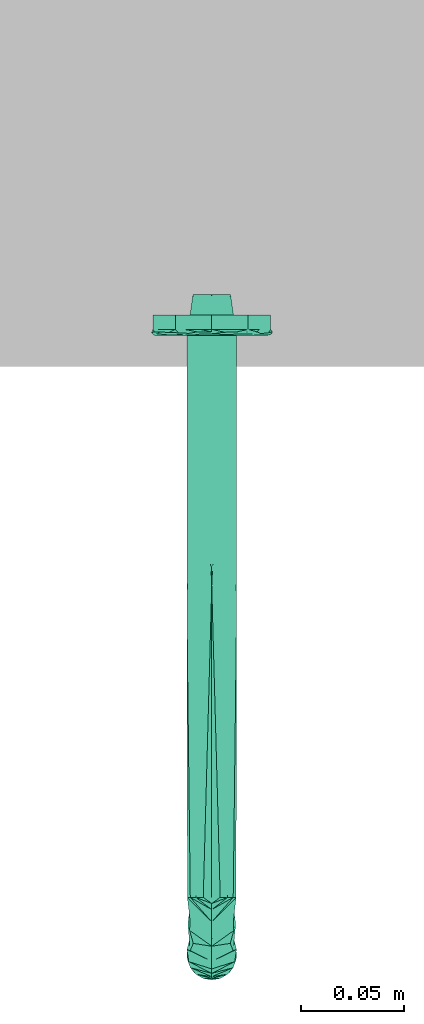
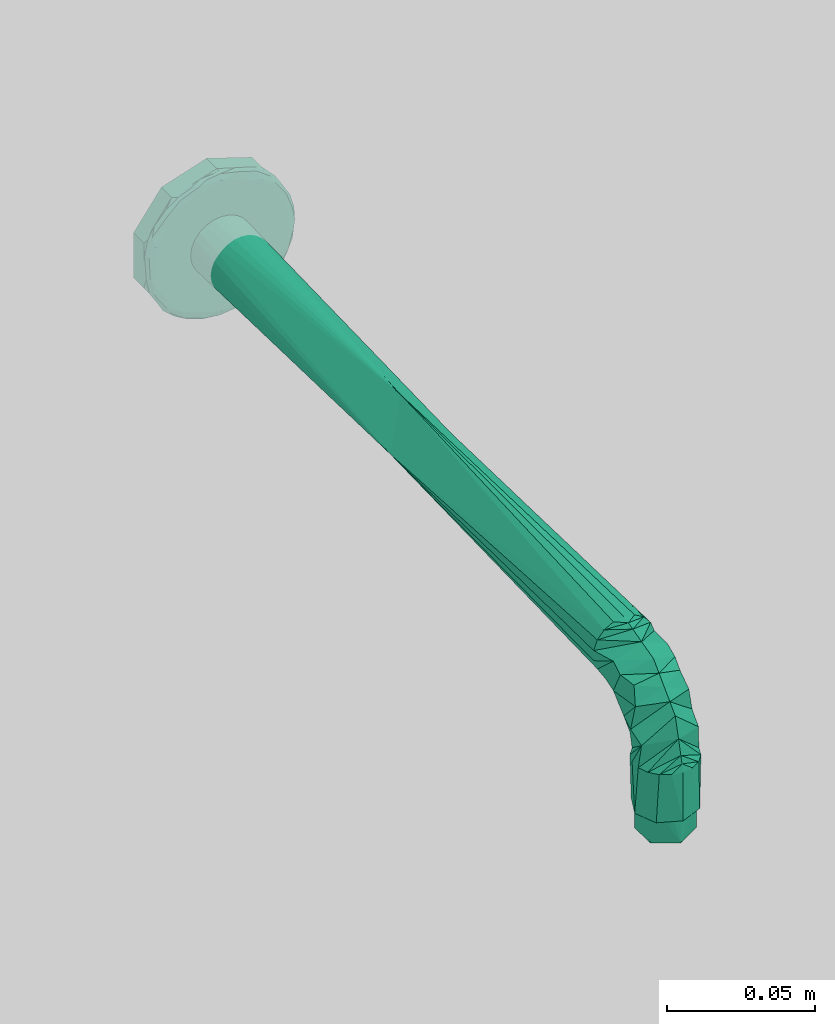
# One storey, part 2 of 2: 1 flow terminal.
"""IFC2X3 building model written with IfcOpenShell, lengths in millimetres."""

from ifc_helpers import new_model, entity, si_unit, converted_unit, derived_unit, direction, frame, origin, place, context, subcontext, project, spatial, faceted_brep, source, transform, mapped, material, type_object, type_shapes, element, save


model = new_model("IFC2X3")

# Units and contexts
model_context = context("Model", 3, precision=0.01, world=origin(), true_north=direction((6.12303176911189e-17, 1.0)))
body_context = subcontext(model_context, "Body", "Model", "MODEL_VIEW")
ifc_project = project(units=[si_unit("LENGTHUNIT", "METRE", prefix="MILLI"), si_unit("AREAUNIT", "SQUARE_METRE"), si_unit("VOLUMEUNIT", "CUBIC_METRE"), converted_unit("PLANEANGLEUNIT", "DEGREE", entity("IfcRatioMeasure", 0.0174532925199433), si_unit("PLANEANGLEUNIT", "RADIAN"), dimensions=[0, 0, 0, 0, 0, 0, 0]), si_unit("MASSUNIT", "GRAM", prefix="KILO"), derived_unit("MASSDENSITYUNIT", [(si_unit("MASSUNIT", "GRAM", prefix="KILO"), 1), (si_unit("LENGTHUNIT", "METRE"), -3)]), derived_unit("MOMENTOFINERTIAUNIT", [(si_unit("LENGTHUNIT", "METRE"), 4)]), si_unit("TIMEUNIT", "SECOND"), si_unit("FREQUENCYUNIT", "HERTZ"), si_unit("THERMODYNAMICTEMPERATUREUNIT", "DEGREE_CELSIUS"), derived_unit("THERMALTRANSMITTANCEUNIT", [(si_unit("MASSUNIT", "GRAM", prefix="KILO"), 1), (si_unit("THERMODYNAMICTEMPERATUREUNIT", "KELVIN"), -1), (si_unit("TIMEUNIT", "SECOND"), -3)]), derived_unit("VOLUMETRICFLOWRATEUNIT", [(si_unit("LENGTHUNIT", "METRE"), 3), (si_unit("TIMEUNIT", "SECOND"), -1)]), si_unit("ELECTRICCURRENTUNIT", "AMPERE"), si_unit("ELECTRICVOLTAGEUNIT", "VOLT"), si_unit("POWERUNIT", "WATT"), si_unit("FORCEUNIT", "NEWTON", prefix="KILO"), si_unit("ILLUMINANCEUNIT", "LUX"), si_unit("LUMINOUSFLUXUNIT", "LUMEN"), si_unit("LUMINOUSINTENSITYUNIT", "CANDELA"), derived_unit("USERDEFINED", [(si_unit("MASSUNIT", "GRAM", prefix="KILO"), -1), (si_unit("LENGTHUNIT", "METRE"), -2), (si_unit("TIMEUNIT", "SECOND"), 3), (si_unit("LUMINOUSFLUXUNIT", "LUMEN"), 1)]), derived_unit("LINEARVELOCITYUNIT", [(si_unit("LENGTHUNIT", "METRE"), 1), (si_unit("TIMEUNIT", "SECOND"), -1)]), si_unit("PRESSUREUNIT", "PASCAL"), derived_unit("USERDEFINED", [(si_unit("LENGTHUNIT", "METRE"), -2), (si_unit("MASSUNIT", "GRAM", prefix="KILO"), 1), (si_unit("TIMEUNIT", "SECOND"), -2)]), derived_unit("LINEARFORCEUNIT", [(si_unit("MASSUNIT", "GRAM", prefix="KILO"), 1), (si_unit("LENGTHUNIT", "METRE"), 1), (si_unit("TIMEUNIT", "SECOND"), -2), (si_unit("LENGTHUNIT", "METRE"), -1)]), derived_unit("PLANARFORCEUNIT", [(si_unit("MASSUNIT", "GRAM", prefix="KILO"), 1), (si_unit("LENGTHUNIT", "METRE"), 1), (si_unit("TIMEUNIT", "SECOND"), -2), (si_unit("LENGTHUNIT", "METRE"), -2)])], contexts=[model_context])

# Site, building, storey
site_placement = place(None, origin())
site = spatial("IfcSite", under=ifc_project, at=site_placement, Name="Default", CompositionType="ELEMENT")
building_placement = place(site_placement, origin())
building = spatial("IfcBuilding", under=site, at=building_placement, CompositionType="ELEMENT")
storey_placement = place(building_placement, origin())
storey = spatial("IfcBuildingStorey", under=building, at=storey_placement, Name="Level 1", CompositionType="ELEMENT", Elevation=0.0)

# Flow terminal
ifc_material = material(Name="Black")
distribution_element_type = type_object("IfcDistributionElementType", Name="FFAS9909-000AL0BF0_REVIT:Wall Mounted Shower Arm", material=ifc_material)
shared_shape = source(origin(), body_context, "Body", "Brep", [
    faceted_brep([(30.1269677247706, 309.500000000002, 0.0), (30.1269677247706, 309.500000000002, 10.0), (27.4093677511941, 309.857778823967, 10.0), (24.8769677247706, 310.906733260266, 10.0), (22.7023465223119, 312.575378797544, 10.0), (21.033700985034, 314.750000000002, 0.0), (21.033700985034, 314.750000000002, 10.0), (19.9847465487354, 317.282400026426, 10.0), (19.6269677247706, 320.0, 10.0), (21.033700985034, 325.250000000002, 0.0), (19.9847465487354, 322.717599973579, 10.0), (21.033700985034, 325.250000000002, 10.0), (22.7023465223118, 327.424621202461, 10.0), (24.8769677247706, 329.093266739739, 10.0), (30.1269677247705, 330.500000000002, 0.0), (27.4093677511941, 330.142221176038, 10.0), (30.1269677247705, 330.500000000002, 10.0), (32.844567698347, 330.142221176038, 10.0), (35.3769677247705, 329.093266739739, 10.0), (37.5515889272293, 327.424621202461, 10.0), (39.2202344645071, 325.250000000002, 0.0), (39.2202344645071, 325.250000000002, 10.0), (40.2691889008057, 322.717599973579, 10.0), (40.6269677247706, 320.0, 10.0), (39.2202344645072, 314.750000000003, 0.0), (40.2691889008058, 317.282400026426, 10.0), (39.2202344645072, 314.750000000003, 10.0), (37.5515889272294, 312.575378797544, 10.0), (35.3769677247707, 310.906733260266, 10.0), (32.8445676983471, 309.857778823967, 10.0), (30.1269677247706, 320.0, 0.0), (21.641686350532, 311.514718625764, 10.0), (19.7345811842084, 314.000141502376, 30.0), (18.1269677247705, 320.0, 10.0), (22.4134329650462, 310.807536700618, 30.0), (30.1269677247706, 308.0, 10.0), (30.1269677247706, 308.0, 30.0), (26.0226748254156, 308.723707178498, 30.0), (18.3092368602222, 317.916436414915, 30.0), (19.734826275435, 326.000283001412, 30.0), (22.4138084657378, 329.192778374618, 30.0), (21.6416863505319, 328.485281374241, 10.0), (26.0231354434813, 331.276460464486, 30.0), (30.1269677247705, 332.0, 30.0), (30.1269677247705, 332.0, 10.0), (18.3093219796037, 322.084046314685, 30.0), (38.6122490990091, 328.485281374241, 10.0), (40.5191091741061, 326.000283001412, 30.0), (42.1269677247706, 320.0, 10.0), (37.8401269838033, 329.192778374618, 30.0), (34.2308000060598, 331.276460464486, 30.0), (41.9446134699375, 322.084046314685, 30.0), (40.5193542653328, 314.000141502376, 30.0), (37.840502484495, 310.807536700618, 30.0), (38.6122490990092, 311.514718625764, 10.0), (34.2312606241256, 308.723707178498, 30.0), (41.944698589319, 317.916436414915, 30.0), (41.24407279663, 323.105900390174, 39.4776777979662), (42.1224096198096, 317.201855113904, 42.9420255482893), (30.1269677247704, 326.641016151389, 50.0), (30.1269677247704, 330.407903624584, 35.9417845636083), (30.1269677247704, 331.203951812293, 32.9708922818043), (30.1269677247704, 328.815807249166, 41.8835691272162), (40.8149430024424, 307.984073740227, 59.390622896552), (40.9745991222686, 298.892429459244, 51.8054547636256), (41.7227950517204, 304.890136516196, 51.3176850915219), (39.072822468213, 314.265808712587, 58.2861507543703), (30.1269677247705, 305.656854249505, 35.6568542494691), (38.3193133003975, 310.191100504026, 36.2399445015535), (40.020574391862, 308.956264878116, 42.7401061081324), (37.8405024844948, 292.0, 67.1924632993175), (30.1269677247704, 294.970892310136, 69.2039518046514), (34.2312606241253, 292.0, 69.2762928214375), (30.1269677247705, 303.313708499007, 41.3137084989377), (30.1269677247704, 297.941784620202, 68.4079036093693), (40.5193542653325, 292.0, 63.9998584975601), (40.519109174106, 292.0, 51.999716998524), (40.6631959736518, 302.998442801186, 61.9007624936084), (41.9446134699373, 292.0, 55.9159536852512), (41.9446985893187, 292.0, 60.0835635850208), (30.1269677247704, 303.883569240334, 66.8158072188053), (37.8401269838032, 292.0, 48.8072216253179), (30.1269677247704, 292.0, 70.0), (30.1269677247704, 319.320508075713, 57.3205080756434), (30.1269677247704, 315.660254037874, 60.9807621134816), (30.1269677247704, 322.980762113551, 53.660254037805), (40.5619659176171, 317.763908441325, 52.0716186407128), (30.1269677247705, 297.656854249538, 43.6568542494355), (30.1269677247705, 292.0, 46.0), (30.1269677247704, 312.0, 64.6410161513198), (34.2308000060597, 292.0, 46.7235395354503), (19.0098626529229, 323.105900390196, 39.477677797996), (20.1900589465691, 308.916109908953, 42.898408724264), (18.1315258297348, 317.201855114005, 42.9420255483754), (21.9346221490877, 310.191100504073, 36.239944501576), (22.413432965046, 292.0, 67.1924632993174), (26.0226748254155, 292.0, 69.2762928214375), (19.2793363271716, 298.892429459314, 51.8054547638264), (18.5311403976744, 304.890136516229, 51.317685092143), (19.7298962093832, 317.841611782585, 52.082781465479), (21.1546214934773, 314.276419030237, 58.2399397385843), (26.0231354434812, 292.0, 46.7235395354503), (22.4138084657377, 292.0, 48.8072216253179), (19.7345811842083, 292.0, 63.9998584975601), (19.7348262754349, 292.0, 51.999716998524), (18.3093219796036, 292.0, 55.9159536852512), (19.590739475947, 302.99844280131, 61.900762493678), (18.3092368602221, 292.0, 60.0835635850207), (19.4576261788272, 308.019821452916, 59.412551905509), (30.1269677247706, 140.956193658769, 70.0), (18.1269677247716, 154.83805026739, 57.9999997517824), (27.0211391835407, 20.0, 69.5911099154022), (30.1269677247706, 20.0, 70.0), (24.1269677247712, 20.0, 68.3923048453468), (21.6416863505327, 20.0, 66.4852813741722), (30.1269677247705, 140.956188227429, 46.0), (21.6416863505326, 20.0, 49.5147186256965), (27.0211391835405, 20.0, 46.4088900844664), (24.126967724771, 20.0, 47.6076951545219), (19.7346628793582, 20.0, 64.0), (18.5358578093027, 20.0, 61.1058285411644), (30.1269677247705, 20.0, 46.0), (18.1269677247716, 20.0, 58.0), (18.5358578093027, 20.0, 54.8941714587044), (19.7346628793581, 20.0, 52.0), (42.1269677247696, 154.838047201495, 58.0000004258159), (38.6122490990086, 20.0, 66.4852813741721), (33.2327962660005, 20.0, 46.4088900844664), (36.1269677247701, 20.0, 47.6076951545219), (38.6122490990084, 20.0, 49.5147186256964), (33.2327962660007, 20.0, 69.5911099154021), (36.1269677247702, 20.0, 68.3923048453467), (40.519272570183, 20.0, 52.0), (41.7180776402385, 20.0, 54.8941714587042), (42.1269677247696, 20.0, 58.0), (41.7180776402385, 20.0, 61.1058285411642), (40.5192725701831, 20.0, 64.0), (30.1269677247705, 10.0, 28.0), (30.1269677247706, 10.0, 47.4999999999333), (27.4093677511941, 10.0, 47.857778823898), (32.8445676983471, 10.0, 47.857778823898), (38.9437465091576, 10.0, 30.8647450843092), (24.5360005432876, 10.0, 29.8166153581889), (47.7605252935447, 10.0, 33.7294901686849), (35.3769677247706, 10.0, 48.9067332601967), (37.5515889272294, 10.0, 50.5753787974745), (39.2202344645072, 10.0, 52.7499999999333), (53.2095942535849, 10.0, 41.2294901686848), (58.6586632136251, 10.0, 48.7294901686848), (40.2691889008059, 10.0, 55.2824000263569), (40.6269677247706, 10.0, 58.0), (58.6586632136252, 10.0, 58.0), (58.6586632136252, 10.0, 67.2705098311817), (40.2691889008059, 10.0, 60.7175999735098), (39.2202344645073, 10.0, 63.2499999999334), (53.2095942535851, 10.0, 74.7705098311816), (47.7605252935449, 10.0, 82.2705098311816), (37.5515889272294, 10.0, 65.424621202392), (35.3769677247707, 10.0, 67.09326673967), (32.8445676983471, 10.0, 68.1422211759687), (41.3089020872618, 10.0, 84.3667692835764), (35.7179349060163, 10.0, 86.1833846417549), (30.1269677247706, 10.0, 88.0), (30.1269677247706, 10.0, 68.4999999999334), (27.4093677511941, 10.0, 68.1422211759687), (21.3101889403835, 10.0, 85.1352549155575), (12.4934101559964, 10.0, 82.2705098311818), (24.8769677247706, 10.0, 67.09326673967), (22.7023465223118, 10.0, 65.4246212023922), (21.033700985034, 10.0, 63.2499999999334), (7.04434119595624, 10.0, 74.7705098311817), (1.59527223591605, 10.0, 67.2705098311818), (19.9847465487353, 10.0, 60.7175999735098), (19.6269677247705, 10.0, 58.0), (1.59527223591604, 10.0, 58.0), (1.59527223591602, 10.0, 48.729490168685), (19.9847465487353, 10.0, 55.2824000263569), (21.0337009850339, 10.0, 52.7499999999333), (7.04434119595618, 10.0, 41.229490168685), (12.4934101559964, 10.0, 33.7294901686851), (18.9450333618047, 10.0, 31.6332307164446), (24.8769677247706, 10.0, 48.9067332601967), (22.7023465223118, 10.0, 50.5753787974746), (30.1269677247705, 20.0, 31.0), (24.5140320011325, 20.0, 32.8237533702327), (19.3853989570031, 20.0, 34.4901472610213), (14.2567659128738, 20.0, 36.1565411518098), (35.7399034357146, 20.0, 32.8237533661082), (40.8685364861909, 20.0, 34.490147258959), (45.9971695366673, 20.0, 36.1565411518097), (50.9013316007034, 20.0, 42.9065411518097), (55.8054936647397, 20.0, 49.6565411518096), (55.8054936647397, 20.0, 58.0), (55.8054936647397, 20.0, 66.3434588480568), (50.9013316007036, 20.0, 73.0934588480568), (45.9971695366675, 20.0, 79.8434588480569), (40.8685364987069, 20.0, 81.509852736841), (35.7399034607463, 20.0, 83.1762466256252), (30.1269677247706, 20.0, 85.0), (24.5140320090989, 20.0, 83.1762466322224), (19.3853989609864, 20.0, 81.5098527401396), (14.2567659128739, 20.0, 79.8434588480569), (9.35260384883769, 20.0, 73.0934588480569), (4.4484417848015, 20.0, 66.3434588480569), (4.4484417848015, 20.0, 58.0), (4.44844178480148, 20.0, 49.6565411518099), (9.35260384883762, 20.0, 42.9065411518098), (8.94088178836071, 19.7758351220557, 76.5172696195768), (23.8642352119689, 18.4003672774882, 86.9842177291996), (30.1269677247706, 17.0, 88.0), (30.1269677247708, 18.2407155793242, 87.4860787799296), (30.1269677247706, 19.1213203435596, 87.121320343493), (4.63302860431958, 19.7063301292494, 70.2735009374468), (6.31497138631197, 19.0463954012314, 74.8896487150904), (23.5591672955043, 19.5082021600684, 85.8827985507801), (17.7658619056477, 18.1590754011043, 85.0791450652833), (21.3101889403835, 17.0, 85.1352549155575), (2.60169203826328, 18.6053377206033, 68.7068469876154), (16.0686840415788, 19.2120034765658, 83.3950233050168), (12.9280938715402, 18.2771867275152, 82.2312474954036), (12.4934101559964, 17.0, 82.2705098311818), (23.8642352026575, 18.4003672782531, 29.0157822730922), (30.1269677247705, 17.0, 28.0), (21.3101889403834, 17.0, 30.8647450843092), (2.2515364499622, 19.7528745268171, 53.7847259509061), (2.25881579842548, 19.6323929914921, 63.6690918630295), (23.5591672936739, 19.5082021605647, 30.1172014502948), (17.7658618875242, 18.159075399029, 30.9208549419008), (16.0686840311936, 19.2120034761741, 32.6049767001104), (8.94088177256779, 19.7758351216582, 39.4827303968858), (3.81458142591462, 19.6404523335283, 47.2488696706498), (0.938720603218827, 19.0522121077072, 58.0), (1.6882141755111, 18.7100272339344, 50.2916588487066), (12.928093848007, 18.2771867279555, 33.7687525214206), (10.8128441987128, 19.2443203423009, 36.3799316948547), (10.8128442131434, 19.2443203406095, 79.6200683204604), (8.28820262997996, 18.1819470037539, 78.2130764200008), (30.1269677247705, 19.1213203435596, 28.8786796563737), (1.595272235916, 17.0, 48.729490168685), (3.40587226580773, 18.1225517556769, 44.8487884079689), (7.04434119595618, 17.0, 41.229490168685), (1.59527223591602, 17.0, 58.0), (1.59527223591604, 17.0, 67.2705098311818), (0.703286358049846, 18.084956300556, 62.7015497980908), (30.1269677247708, 19.5071657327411, 86.1898071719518), (24.5360005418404, 17.0, 86.1833846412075), (18.9450333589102, 17.0, 84.3667692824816), (7.04434119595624, 17.0, 74.7705098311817), (8.28820260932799, 18.1819470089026, 37.7869236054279), (6.31497136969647, 19.0463954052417, 41.1103513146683), (12.4934101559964, 17.0, 33.7294901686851), (38.6315943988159, 19.7138627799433, 84.9694908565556), (37.3077637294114, 18.1903897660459, 86.8742100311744), (58.6586632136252, 17.0, 67.2705098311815), (58.6586632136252, 17.0, 58.0), (59.29864318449, 18.5840335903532, 62.6990050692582), (36.6947681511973, 19.5082021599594, 30.1172014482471), (42.4880735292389, 18.1590754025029, 30.9208549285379), (38.9437465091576, 17.0, 30.8647450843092), (36.3897002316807, 18.4003672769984, 29.0157822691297), (45.7862895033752, 19.5617797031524, 81.8857002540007), (44.1852513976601, 19.2120034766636, 32.6049766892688), (47.3258415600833, 18.2771867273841, 33.7687524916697), (47.7605252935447, 17.0, 33.7294901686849), (35.5815706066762, 19.2210505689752, 86.4993702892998), (58.9001524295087, 19.0888524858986, 53.3075947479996), (58.6586632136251, 17.0, 48.7294901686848), (49.4410912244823, 19.2443203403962, 36.3799316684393), (53.9389640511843, 19.0463953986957, 41.110351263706), (51.9657327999, 18.1819470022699, 37.786923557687), (47.7605252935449, 17.0, 82.2705098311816), (53.2095942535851, 17.0, 74.7705098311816), (50.8376509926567, 18.4769059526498, 79.1635325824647), (38.9437465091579, 17.0, 85.1352549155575), (43.3521359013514, 17.0, 83.7028823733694), (35.7399034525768, 17.0, 86.1762466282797), (41.1365507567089, 18.9259641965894, 85.153038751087), (50.8944920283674, 19.6974769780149, 77.2439167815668), (46.3005378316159, 18.6605192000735, 82.6693977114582), (57.8437951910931, 18.1661287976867, 68.8479487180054), (55.9341287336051, 17.0, 71.0205098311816), (51.3130536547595, 19.7758351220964, 39.4827303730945), (55.3761447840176, 18.2555389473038, 73.6854337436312), (56.4817793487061, 19.1497699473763, 70.3205733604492), (58.1297475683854, 19.6947777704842, 62.2161564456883), (55.6209068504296, 19.7063301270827, 45.7264990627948), (57.4575274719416, 18.6851858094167, 46.9443794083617), (57.7914465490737, 19.8341555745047, 53.7856041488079), (35.7179349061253, 17.0, 29.8166153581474), (41.3089020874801, 17.0, 31.6332307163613), (53.2095942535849, 17.0, 41.2294901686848), (30.1269677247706, 0.0, 68.4999999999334), (21.033700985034, 0.0, 63.2499999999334), (21.0337009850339, 0.0, 52.7499999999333), (30.1269677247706, 0.0, 47.4999999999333), (39.2202344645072, 0.0, 52.7499999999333), (39.2202344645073, 0.0, 63.2499999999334), (30.1269677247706, 0.0, 58.0)], [[[0, 1, 2]], [[2, 3, 0]], [[4, 5, 3]], [[0, 3, 5]], [[6, 7, 5]], [[4, 6, 5]], [[5, 7, 8]], [[9, 8, 10]], [[10, 11, 9]], [[12, 9, 11]], [[9, 13, 14]], [[13, 9, 12]], [[15, 16, 14]], [[15, 14, 13]], [[8, 9, 5]], [[14, 16, 17]], [[17, 18, 14]], [[19, 20, 18]], [[14, 18, 20]], [[21, 22, 20]], [[19, 21, 20]], [[20, 22, 23]], [[24, 23, 25]], [[25, 26, 24]], [[27, 24, 26]], [[24, 28, 0]], [[28, 24, 27]], [[29, 1, 0]], [[29, 0, 28]], [[23, 24, 20]], [[9, 14, 30]], [[30, 5, 9]], [[14, 20, 30]], [[24, 30, 20]], [[30, 24, 0]], [[30, 0, 5]], [[31, 32, 33]], [[34, 32, 31]], [[35, 36, 37]], [[37, 31, 35]], [[31, 37, 34]], [[32, 38, 33]], [[39, 40, 41]], [[42, 43, 44]], [[40, 42, 41]], [[45, 39, 33]], [[45, 33, 38]], [[33, 39, 41]], [[42, 44, 41]], [[46, 47, 48]], [[49, 47, 46]], [[44, 43, 50]], [[50, 46, 44]], [[46, 50, 49]], [[47, 51, 48]], [[52, 53, 54]], [[55, 36, 35]], [[53, 55, 54]], [[56, 52, 48]], [[56, 48, 51]], [[48, 52, 54]], [[55, 35, 54]], [[44, 16, 15]], [[44, 15, 41]], [[16, 44, 17]], [[17, 44, 46]], [[46, 18, 17]], [[19, 18, 46]], [[46, 21, 19]], [[21, 46, 48]], [[22, 21, 48]], [[23, 22, 48]], [[25, 23, 48]], [[25, 48, 26]], [[54, 26, 48]], [[26, 54, 27]], [[28, 27, 54]], [[29, 28, 54]], [[54, 35, 29]], [[29, 35, 1]], [[1, 35, 2]], [[31, 2, 35]], [[31, 3, 2]], [[31, 4, 3]], [[6, 4, 31]], [[6, 31, 33]], [[41, 11, 33]], [[33, 11, 10]], [[10, 8, 33]], [[33, 7, 6]], [[33, 8, 7]], [[41, 15, 13]], [[12, 41, 13]], [[41, 12, 11]], [[51, 57, 56]], [[58, 57, 59]], [[47, 49, 60]], [[61, 49, 50]], [[62, 51, 47]], [[63, 64, 65]], [[66, 63, 65]], [[59, 57, 62]], [[51, 62, 57]], [[67, 68, 69]], [[70, 71, 72]], [[69, 73, 67]], [[74, 70, 75]], [[57, 53, 52]], [[53, 57, 68]], [[74, 71, 70]], [[56, 57, 52]], [[69, 68, 58]], [[57, 58, 68]], [[76, 64, 77]], [[78, 77, 79]], [[80, 75, 79]], [[64, 76, 81]], [[77, 80, 79]], [[75, 80, 74]], [[72, 71, 82]], [[66, 83, 84]], [[65, 73, 69]], [[55, 53, 68]], [[58, 85, 86]], [[87, 64, 88]], [[64, 87, 65]], [[62, 47, 60]], [[80, 77, 89]], [[50, 43, 61]], [[90, 88, 64]], [[81, 90, 64]], [[61, 60, 49]], [[78, 76, 77]], [[69, 58, 86]], [[67, 36, 68]], [[65, 69, 86]], [[65, 86, 66]], [[36, 55, 68]], [[86, 83, 66]], [[63, 84, 89]], [[63, 89, 77]], [[66, 84, 63]], [[64, 63, 77]], [[85, 58, 59]], [[73, 65, 87]], [[85, 83, 86]], [[34, 91, 32]], [[92, 93, 94]], [[71, 74, 95]], [[96, 82, 71]], [[91, 59, 62]], [[36, 94, 37]], [[97, 98, 87]], [[37, 94, 34]], [[61, 43, 42]], [[85, 93, 99]], [[98, 99, 92]], [[39, 62, 60]], [[91, 45, 38]], [[73, 98, 92]], [[32, 91, 38]], [[62, 39, 45]], [[100, 83, 99]], [[97, 101, 102]], [[94, 91, 34]], [[92, 94, 67]], [[101, 97, 88]], [[98, 73, 87]], [[80, 103, 74]], [[97, 87, 88]], [[60, 40, 39]], [[60, 61, 40]], [[104, 105, 106]], [[106, 97, 104]], [[93, 91, 94]], [[107, 106, 105]], [[107, 103, 80]], [[106, 107, 80]], [[92, 99, 93]], [[95, 74, 103]], [[89, 106, 80]], [[104, 97, 102]], [[45, 91, 62]], [[96, 71, 95]], [[108, 97, 106]], [[40, 61, 42]], [[36, 67, 94]], [[98, 100, 99]], [[92, 67, 73]], [[59, 91, 93]], [[85, 59, 93]], [[108, 100, 98]], [[108, 84, 100]], [[97, 108, 98]], [[89, 108, 106]], [[84, 108, 89]], [[84, 83, 100]], [[99, 83, 85]], [[96, 95, 109]], [[110, 103, 107]], [[105, 104, 110]], [[110, 109, 95]], [[111, 112, 109]], [[82, 96, 109]], [[95, 103, 110]], [[109, 113, 111]], [[114, 109, 110]], [[110, 115, 116]], [[113, 109, 114]], [[110, 102, 115]], [[115, 117, 118]], [[114, 110, 119]], [[120, 119, 110]], [[102, 110, 104]], [[101, 88, 115]], [[102, 101, 115]], [[121, 117, 115]], [[110, 122, 120]], [[122, 110, 123]], [[110, 124, 123]], [[110, 116, 124]], [[116, 115, 118]], [[105, 110, 107]], [[90, 81, 115]], [[81, 76, 125]], [[125, 70, 109]], [[126, 125, 109]], [[125, 76, 78]], [[125, 78, 79]], [[75, 125, 79]], [[115, 81, 125]], [[88, 90, 115]], [[127, 121, 115]], [[128, 127, 115]], [[128, 115, 129]], [[125, 129, 115]], [[109, 130, 131]], [[129, 125, 132]], [[133, 132, 125]], [[70, 125, 75]], [[72, 82, 109]], [[72, 109, 70]], [[112, 130, 109]], [[125, 134, 133]], [[134, 125, 135]], [[125, 136, 135]], [[125, 126, 136]], [[126, 109, 131]], [[137, 138, 139]], [[138, 137, 140]], [[140, 137, 141]], [[139, 142, 137]], [[140, 141, 143]], [[140, 143, 144]], [[143, 145, 144]], [[143, 146, 145]], [[146, 143, 147]], [[146, 147, 148]], [[149, 146, 148]], [[148, 150, 149]], [[150, 148, 151]], [[150, 151, 152]], [[153, 150, 152]], [[152, 154, 153]], [[154, 152, 155]], [[154, 155, 156]], [[154, 156, 157]], [[157, 156, 158]], [[159, 158, 156]], [[159, 156, 160]], [[159, 160, 161]], [[159, 161, 162]], [[159, 162, 163]], [[164, 163, 162]], [[164, 162, 165]], [[164, 165, 166]], [[167, 164, 166]], [[166, 168, 167]], [[166, 169, 168]], [[169, 166, 170]], [[169, 170, 171]], [[169, 171, 172]], [[173, 172, 171]], [[173, 171, 174]], [[173, 174, 175]], [[175, 176, 173]], [[177, 176, 175]], [[177, 175, 178]], [[177, 178, 179]], [[139, 179, 180]], [[179, 139, 181]], [[182, 177, 179]], [[179, 181, 182]], [[139, 180, 142]], [[117, 121, 183]], [[117, 183, 184]], [[117, 184, 185]], [[117, 185, 186]], [[118, 117, 186]], [[127, 183, 121]], [[127, 187, 183]], [[127, 188, 187]], [[127, 189, 188]], [[128, 189, 127]], [[128, 129, 189]], [[129, 132, 189]], [[132, 190, 189]], [[132, 191, 190]], [[191, 132, 133]], [[133, 134, 191]], [[134, 192, 191]], [[134, 193, 192]], [[193, 134, 135]], [[135, 136, 193]], [[136, 194, 193]], [[136, 195, 194]], [[126, 195, 136]], [[131, 195, 126]], [[195, 131, 130]], [[130, 196, 195]], [[130, 197, 196]], [[130, 198, 197]], [[112, 198, 130]], [[198, 112, 111]], [[111, 199, 198]], [[111, 200, 199]], [[111, 201, 200]], [[201, 111, 113]], [[113, 114, 201]], [[114, 119, 201]], [[119, 202, 201]], [[119, 203, 202]], [[120, 203, 119]], [[203, 120, 122]], [[122, 204, 203]], [[122, 205, 204]], [[122, 123, 205]], [[123, 124, 205]], [[124, 116, 186]], [[124, 186, 206]], [[124, 206, 205]], [[118, 186, 116]], [[202, 207, 201]], [[208, 209, 210, 211]], [[207, 212, 213]], [[214, 198, 199, 200]], [[215, 216, 208]], [[217, 213, 212]], [[214, 208, 211]], [[214, 200, 218]], [[215, 219, 220]], [[221, 222, 223]], [[224, 225, 204]], [[226, 227, 228]], [[206, 229, 230]], [[231, 224, 232]], [[233, 228, 227]], [[226, 221, 227]], [[228, 186, 185]], [[228, 233, 234]], [[235, 213, 236]], [[228, 185, 226]], [[226, 183, 237]], [[238, 239, 240]], [[224, 231, 225]], [[241, 242, 243]], [[219, 235, 236]], [[215, 208, 214]], [[218, 200, 201]], [[214, 211, 244, 198]], [[215, 214, 218]], [[208, 216, 245, 209]], [[219, 215, 218]], [[215, 220, 246, 216]], [[235, 219, 218]], [[217, 247, 213]], [[218, 201, 235]], [[219, 236, 220]], [[235, 207, 213]], [[203, 225, 212]], [[212, 202, 203]], [[217, 242, 247]], [[225, 217, 212]], [[231, 243, 225]], [[205, 224, 204]], [[232, 241, 231]], [[225, 203, 204]], [[213, 247, 236]], [[220, 236, 247]], [[201, 207, 235]], [[212, 207, 202]], [[225, 243, 217]], [[217, 243, 242]], [[231, 241, 243]], [[232, 224, 230]], [[232, 238, 241]], [[230, 224, 205]], [[238, 232, 239]], [[234, 229, 186]], [[248, 249, 234]], [[230, 205, 206]], [[239, 230, 249]], [[230, 239, 232]], [[239, 249, 248]], [[183, 226, 185, 184]], [[221, 226, 237]], [[222, 221, 237]], [[221, 223, 227]], [[223, 250, 227]], [[233, 227, 250]], [[248, 250, 240]], [[233, 248, 234]], [[229, 234, 249]], [[186, 228, 234]], [[250, 248, 233]], [[239, 248, 240]], [[230, 229, 249]], [[186, 229, 206]], [[197, 198, 251, 196]], [[210, 252, 211]], [[253, 254, 255]], [[256, 183, 187, 188]], [[257, 258, 259]], [[256, 259, 237]], [[260, 196, 251]], [[256, 188, 261]], [[257, 262, 263]], [[264, 251, 244]], [[265, 254, 266]], [[267, 268, 269]], [[270, 271, 272]], [[273, 274, 252, 275]], [[264, 252, 276]], [[198, 244, 251]], [[195, 260, 277]], [[275, 252, 210]], [[210, 209, 275]], [[264, 244, 211]], [[274, 270, 278]], [[253, 279, 280]], [[252, 264, 211]], [[251, 264, 276]], [[190, 281, 189]], [[262, 267, 269]], [[251, 276, 260]], [[282, 277, 272]], [[277, 194, 195]], [[252, 274, 276]], [[193, 194, 283]], [[284, 283, 255]], [[281, 285, 268]], [[285, 286, 268]], [[287, 191, 192]], [[278, 260, 276]], [[237, 259, 222]], [[283, 194, 277]], [[279, 283, 282]], [[260, 272, 277]], [[271, 280, 282]], [[254, 265, 255]], [[284, 265, 287]], [[284, 192, 193]], [[283, 284, 193]], [[265, 284, 255]], [[278, 272, 260]], [[257, 259, 256]], [[261, 188, 189]], [[183, 256, 237]], [[257, 256, 261]], [[259, 258, 288, 222]], [[262, 257, 261]], [[257, 263, 289, 258]], [[267, 262, 261]], [[286, 290, 268]], [[261, 189, 267]], [[262, 269, 263]], [[267, 281, 268]], [[287, 285, 191]], [[285, 190, 191]], [[286, 285, 265]], [[265, 266, 286]], [[290, 286, 266]], [[268, 290, 269]], [[263, 269, 290]], [[189, 281, 267]], [[285, 281, 190]], [[260, 195, 196]], [[279, 255, 283]], [[277, 282, 283]], [[272, 271, 282]], [[280, 279, 282]], [[255, 279, 253]], [[284, 287, 192]], [[285, 287, 265]], [[274, 278, 276]], [[270, 272, 278]], [[220, 166, 165, 162, 209, 245, 216, 246]], [[242, 171, 170, 166, 220, 247]], [[142, 180, 179, 250, 223, 222, 137]], [[174, 171, 242, 241, 238, 175]], [[250, 179, 178, 175, 238, 240]], [[263, 143, 141, 137, 222, 288, 258, 289]], [[266, 148, 147, 143, 263, 290]], [[161, 160, 156, 270, 274, 273, 275, 209, 162]], [[151, 148, 266, 254, 253, 152]], [[270, 156, 155, 152, 253, 280, 271]], [[291, 163, 164]], [[164, 167, 291]], [[168, 292, 167]], [[167, 292, 291]], [[292, 168, 169]], [[292, 172, 173]], [[172, 292, 169]], [[293, 173, 176]], [[176, 177, 293]], [[182, 293, 177]], [[293, 181, 294]], [[181, 293, 182]], [[139, 138, 294]], [[139, 294, 181]], [[173, 293, 292]], [[294, 138, 140]], [[140, 144, 294]], [[145, 295, 144]], [[144, 295, 294]], [[295, 145, 146]], [[295, 149, 150]], [[149, 295, 146]], [[296, 150, 153]], [[153, 154, 296]], [[157, 296, 154]], [[296, 158, 291]], [[158, 296, 157]], [[159, 163, 291]], [[159, 291, 158]], [[150, 296, 295]], [[293, 294, 297]], [[297, 292, 293]], [[294, 295, 297]], [[296, 297, 295]], [[297, 296, 291]], [[297, 291, 292]]]),
])
type_shapes(distribution_element_type, [shared_shape])
flow_terminal_placement = place(storey_placement, frame((-1747.66596382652, 3069.83382976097, 1086.22243953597), z_axis=(0.0, 0.0, 1.0), x_axis=(-1.0, 0.0, 0.0)))
element("IfcFlowTerminal", 1, at=flow_terminal_placement, inside=storey, type_object=distribution_element_type, material=ifc_material, Name="FFAS9909-000AL0BF0_REVIT:Wall Mounted Shower Arm", ObjectType="FFAS9909-000AL0BF0_REVIT:Wall Mounted Shower Arm", context=body_context, shape_type="MappedRepresentation", body=[
    mapped(shared_shape, transform((0.0, 0.0, 0.0), scale=1.0)),
])

save(model, "model.ifc")
